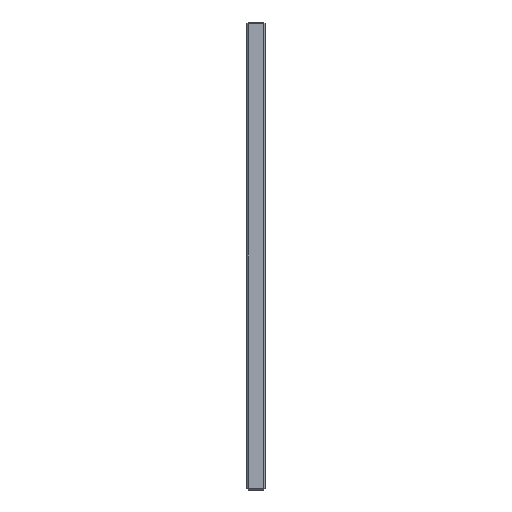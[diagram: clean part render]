
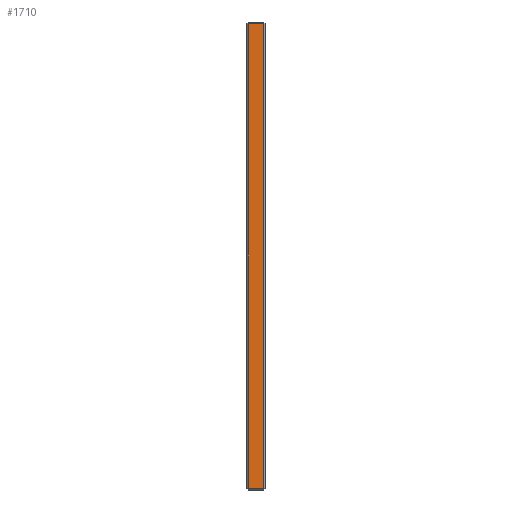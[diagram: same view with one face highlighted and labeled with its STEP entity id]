
A CAD part, left-side view. The second image highlights one B-rep face of the part: STEP entity #1710.
In plain terms, the highlighted planar face has unit normal (-1, 0, 0).
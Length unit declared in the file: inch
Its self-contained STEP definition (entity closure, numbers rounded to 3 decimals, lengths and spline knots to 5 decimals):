
#33 = AXIS2_PLACEMENT_3D ( 'NONE', #1362, #403, #420 ) ;
#58 = VERTEX_POINT ( 'NONE', #1439 ) ;
#180 = ORIENTED_EDGE ( 'NONE', *, *, #994, .T. ) ;
#372 = EDGE_CURVE ( 'NONE', #58, #1587, #873, .T. ) ;
#398 = VERTEX_POINT ( 'NONE', #1597 ) ;
#403 = DIRECTION ( 'NONE',  ( 1., 0., 0. ) ) ;
#420 = DIRECTION ( 'NONE',  ( 0., 0., -1. ) ) ;
#464 = FACE_OUTER_BOUND ( 'NONE', #1183, .T. ) ;
#634 = CARTESIAN_POINT ( 'NONE',  ( -5.9375, 0.05, 5.825 ) ) ;
#643 = DIRECTION ( 'NONE',  ( 0., 1., 0. ) ) ;
#743 = LINE ( 'NONE', #1612, #1549 ) ;
#791 = CARTESIAN_POINT ( 'NONE',  ( -5.9375, 0.5, -5.825 ) ) ;
#859 = ORIENTED_EDGE ( 'NONE', *, *, #1567, .T. ) ;
#873 = LINE ( 'NONE', #1464, #1644 ) ;
#908 = ORIENTED_EDGE ( 'NONE', *, *, #1601, .T. ) ;
#913 = DIRECTION ( 'NONE',  ( 0., 0., -1. ) ) ;
#938 = CARTESIAN_POINT ( 'NONE',  ( -5.9375, 0.05, -5.875 ) ) ;
#994 = EDGE_CURVE ( 'NONE', #1587, #398, #1709, .T. ) ;
#1052 = VERTEX_POINT ( 'NONE', #634 ) ;
#1183 = EDGE_LOOP ( 'NONE', ( #1515, #180, #859, #908 ) ) ;
#1227 = LINE ( 'NONE', #938, #1340 ) ;
#1321 = CARTESIAN_POINT ( 'NONE',  ( -5.9375, 0.45, -5.825 ) ) ;
#1324 = DIRECTION ( 'NONE',  ( 0., -1., 0. ) ) ;
#1340 = VECTOR ( 'NONE', #1602, 39.37008 ) ;
#1362 = CARTESIAN_POINT ( 'NONE',  ( -5.9375, 0.5, -5.875 ) ) ;
#1439 = CARTESIAN_POINT ( 'NONE',  ( -5.9375, 0.45, 5.825 ) ) ;
#1464 = CARTESIAN_POINT ( 'NONE',  ( -5.9375, 0.45, -5.875 ) ) ;
#1500 = PLANE ( 'NONE',  #33 ) ;
#1515 = ORIENTED_EDGE ( 'NONE', *, *, #372, .T. ) ;
#1530 = VECTOR ( 'NONE', #1324, 39.37008 ) ;
#1549 = VECTOR ( 'NONE', #643, 39.37008 ) ;
#1567 = EDGE_CURVE ( 'NONE', #398, #1052, #1227, .T. ) ;
#1587 = VERTEX_POINT ( 'NONE', #1321 ) ;
#1597 = CARTESIAN_POINT ( 'NONE',  ( -5.9375, 0.05, -5.825 ) ) ;
#1601 = EDGE_CURVE ( 'NONE', #1052, #58, #743, .T. ) ;
#1602 = DIRECTION ( 'NONE',  ( 0., 0., 1. ) ) ;
#1612 = CARTESIAN_POINT ( 'NONE',  ( -5.9375, 0.5, 5.825 ) ) ;
#1644 = VECTOR ( 'NONE', #913, 39.37008 ) ;
#1709 = LINE ( 'NONE', #791, #1530 ) ;
#1710 = ADVANCED_FACE ( 'Placement Plane', ( #464 ), #1500, .F. ) ;
